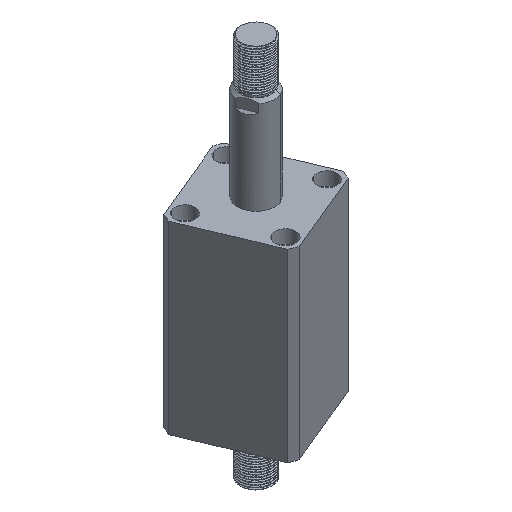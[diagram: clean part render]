
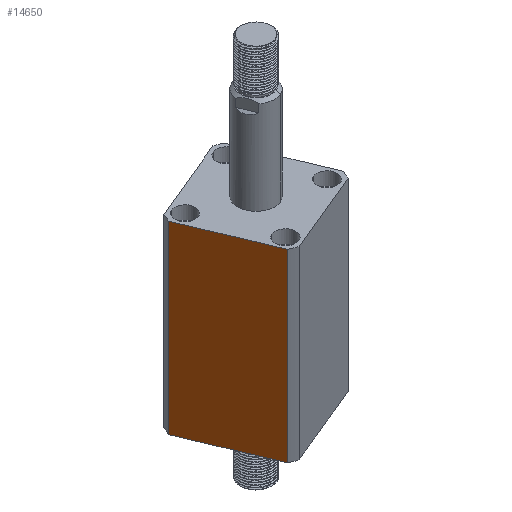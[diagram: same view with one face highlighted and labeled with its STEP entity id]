
A CAD part, isometric view. The second image highlights one B-rep face of the part: STEP entity #14650.
In plain terms, the highlighted planar face has unit normal (-0.924, -0.383, 0) as drawn and (0, -1, 0) by its records, which use the part's own axes.
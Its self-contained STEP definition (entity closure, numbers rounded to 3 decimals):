
#312 = ORIENTED_EDGE ( 'NONE', *, *, #15912, .F. ) ;
#446 = DIRECTION ( 'NONE',  ( 0., 0., 1. ) ) ;
#880 = DIRECTION ( 'NONE',  ( 0., 0., 1. ) ) ;
#1358 = VERTEX_POINT ( 'NONE', #16527 ) ;
#1392 = VERTEX_POINT ( 'NONE', #2444 ) ;
#1907 = LINE ( 'NONE', #15601, #15886 ) ;
#2444 = CARTESIAN_POINT ( 'NONE',  ( 30.615, -35., 125. ) ) ;
#3443 = EDGE_CURVE ( 'NONE', #7834, #1392, #1907, .T. ) ;
#3663 = FACE_OUTER_BOUND ( 'NONE', #3687, .T. ) ;
#3687 = EDGE_LOOP ( 'NONE', ( #312, #12382, #16915, #10961 ) ) ;
#3852 = LINE ( 'NONE', #9918, #11037 ) ;
#4868 = LINE ( 'NONE', #13092, #15301 ) ;
#4980 = EDGE_CURVE ( 'NONE', #1392, #7390, #15871, .T. ) ;
#6719 = DIRECTION ( 'NONE',  ( 1., 0., 0. ) ) ;
#7390 = VERTEX_POINT ( 'NONE', #11054 ) ;
#7593 = CARTESIAN_POINT ( 'NONE',  ( -35., -35., 125. ) ) ;
#7834 = VERTEX_POINT ( 'NONE', #9969 ) ;
#8974 = DIRECTION ( 'NONE',  ( 0., 1., 0. ) ) ;
#9157 = CARTESIAN_POINT ( 'NONE',  ( 30.615, -35., -175. ) ) ;
#9918 = CARTESIAN_POINT ( 'NONE',  ( -30.615, -35., -175. ) ) ;
#9969 = CARTESIAN_POINT ( 'NONE',  ( -30.615, -35., 125. ) ) ;
#10961 = ORIENTED_EDGE ( 'NONE', *, *, #3443, .F. ) ;
#11037 = VECTOR ( 'NONE', #446, 1000. ) ;
#11054 = CARTESIAN_POINT ( 'NONE',  ( 30.615, -35., 0. ) ) ;
#11802 = VECTOR ( 'NONE', #14561, 1000. ) ;
#11820 = DIRECTION ( 'NONE',  ( 1., 0., 0. ) ) ;
#12382 = ORIENTED_EDGE ( 'NONE', *, *, #14322, .T. ) ;
#13092 = CARTESIAN_POINT ( 'NONE',  ( -35., -35., 0. ) ) ;
#14322 = EDGE_CURVE ( 'NONE', #1358, #7390, #4868, .T. ) ;
#14470 = AXIS2_PLACEMENT_3D ( 'NONE', #7593, #8974, #880 ) ;
#14561 = DIRECTION ( 'NONE',  ( 0., 0., -1. ) ) ;
#14650 = ADVANCED_FACE ( 'NONE', ( #3663 ), #15752, .F. ) ;
#15301 = VECTOR ( 'NONE', #6719, 1000. ) ;
#15601 = CARTESIAN_POINT ( 'NONE',  ( -35., -35., 125. ) ) ;
#15752 = PLANE ( 'NONE',  #14470 ) ;
#15871 = LINE ( 'NONE', #9157, #11802 ) ;
#15886 = VECTOR ( 'NONE', #11820, 1000. ) ;
#15912 = EDGE_CURVE ( 'NONE', #1358, #7834, #3852, .T. ) ;
#16527 = CARTESIAN_POINT ( 'NONE',  ( -30.615, -35., 0. ) ) ;
#16915 = ORIENTED_EDGE ( 'NONE', *, *, #4980, .F. ) ;
